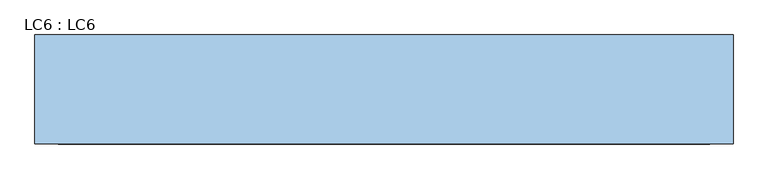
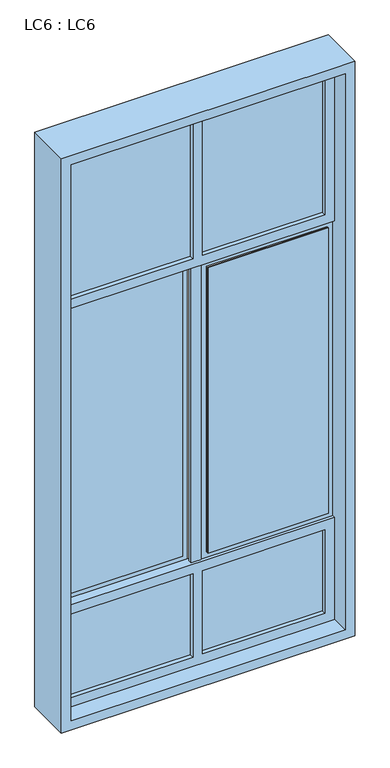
"""IFC4 building model written with IfcOpenShell, lengths in millimetres: window geometry, LC6 : LC6."""

from ifc_helpers import new_model, si_unit, frame, origin, place, context, project, spatial, polyline, outline, extrude, source, transform, mapped, element, save


def lc6_lc6_03a52bd1(model_context):
    return source(origin(), model_context, "Body", "SweptSolid", [
        extrude(outline(polyline([(-25.0, 2.5), (-25.0, -2.5), (-650.0, -2.5), (-650.0, 2.5), (-25.0, 2.5)])), frame((0.0, 0.0, 2550.0), z_axis=(0.0, 0.0, 1.0), x_axis=(1.0, 0.0, 0.0)), (0.0, 0.0, 1.0), 750.0),
        extrude(outline(polyline([(650.0, 2.5), (650.0, -2.5), (25.0, -2.5), (25.0, 2.5), (650.0, 2.5)])), frame((0.0, 0.0, 2550.0), z_axis=(0.0, 0.0, 1.0), x_axis=(1.0, 0.0, 0.0)), (0.0, 0.0, 1.0), 750.0),
        extrude(outline(polyline([(-25.0, 2.5), (-25.0, -2.5), (-650.0, -2.5), (-650.0, 2.5), (-25.0, 2.5)])), frame((0.0, 0.0, 400.0), z_axis=(0.0, 0.0, 1.0), x_axis=(1.0, 0.0, 0.0)), (0.0, 0.0, 1.0), 450.0),
        extrude(outline(polyline([(650.0, 2.5), (650.0, -2.5), (25.0, -2.5), (25.0, 2.5), (650.0, 2.5)])), frame((0.0, 0.0, 400.0), z_axis=(0.0, 0.0, 1.0), x_axis=(1.0, 0.0, 0.0)), (0.0, 0.0, 1.0), 450.0),
        extrude(outline(polyline([(670.0, -15.0), (670.0, -20.0), (55.0, -20.0), (55.0, -15.0), (670.0, -15.0)])), frame((0.0, 0.0, 930.0), z_axis=(0.0, 0.0, 1.0), x_axis=(1.0, 0.0, 0.0)), (0.0, 0.0, 1.0), 1540.0),
        extrude(outline(polyline([(-55.0, 20.0), (-55.0, 15.0), (-670.0, 15.0), (-670.0, 20.0), (-55.0, 20.0)])), frame((0.0, 0.0, 930.0), z_axis=(0.0, 0.0, 1.0), x_axis=(1.0, 0.0, 0.0)), (0.0, 0.0, 1.0), 1540.0),
        extrude(outline(polyline([(2500.0, 700.0), (2500.0, 25.0), (900.0, 25.0), (900.0, 700.0), (2500.0, 700.0)]), holes=[polyline([(2470.0, 670.0), (930.0, 670.0), (930.0, 55.0), (2470.0, 55.0), (2470.0, 670.0)])]), frame((0.0, -8.0, 0.0), z_axis=(0.0, 1.0, 0.0), x_axis=(0.0, 0.0, 1.0)), (0.0, 0.0, 1.0), 15.0),
        extrude(outline(polyline([(2500.0, -25.0), (2500.0, -700.0), (900.0, -700.0), (900.0, -25.0), (2500.0, -25.0)]), holes=[polyline([(2470.0, -55.0), (930.0, -55.0), (930.0, -670.0), (2470.0, -670.0), (2470.0, -55.0)])]), frame((0.0, 25.0, 0.0), z_axis=(0.0, 1.0, 0.0), x_axis=(0.0, 0.0, 1.0)), (0.0, 0.0, 1.0), 2.0),
        extrude(outline(polyline([(25.0, 10.0), (25.0, -10.0), (-25.0, -10.0), (-25.0, 10.0), (25.0, 10.0)])), frame((0.0, 0.0, 900.0), z_axis=(0.0, 0.0, 1.0), x_axis=(1.0, 0.0, 0.0)), (0.0, 0.0, 1.0), 1600.0),
        extrude(outline(polyline([(3350.0, 700.0), (3350.0, -700.0), (2500.0, -700.0), (2500.0, 700.0), (3350.0, 700.0)]), holes=[polyline([(3300.0, -25.0), (2550.0, -25.0), (2550.0, -650.0), (3300.0, -650.0), (3300.0, -25.0)]), polyline([(3300.0, 650.0), (2550.0, 650.0), (2550.0, 25.0), (3300.0, 25.0), (3300.0, 650.0)])]), frame((0.0, -25.0, 0.0), z_axis=(0.0, 1.0, 0.0), x_axis=(0.0, 0.0, 1.0)), (0.0, 0.0, 1.0), 50.0),
        extrude(outline(polyline([(900.0, 700.0), (900.0, -700.0), (350.0, -700.0), (350.0, 700.0), (900.0, 700.0)]), holes=[polyline([(850.0, -25.0), (400.0, -25.0), (400.0, -650.0), (850.0, -650.0), (850.0, -25.0)]), polyline([(850.0, 650.0), (400.0, 650.0), (400.0, 25.0), (850.0, 25.0), (850.0, 650.0)])]), frame((0.0, -25.0, 0.0), z_axis=(0.0, 1.0, 0.0), x_axis=(0.0, 0.0, 1.0)), (0.0, 0.0, 1.0), 50.0),
        extrude(outline(polyline([(3400.0, 750.0), (3400.0, -750.0), (300.0, -750.0), (300.0, 750.0), (3400.0, 750.0)]), holes=[polyline([(3350.0, 700.0), (350.0, 700.0), (350.0, -700.0), (3350.0, -700.0), (3350.0, 700.0)])]), frame((0.0, -117.0, 0.0), z_axis=(0.0, 1.0, 0.0), x_axis=(0.0, 0.0, 1.0)), (0.0, 0.0, 1.0), 234.0),
    ])


if __name__ == "__main__":
    model = new_model("IFC4")
    model_context = context("Model", 3, world=origin())
    ifc_project = project(units=[si_unit("LENGTHUNIT", "METRE", prefix="MILLI")], contexts=[model_context])
    site = spatial("IfcSite", under=ifc_project)
    building = spatial("IfcBuilding", under=site)
    placement = place(None, origin())
    lc6_lc6_shape = lc6_lc6_03a52bd1(model_context)
    element("IfcWindow", 1, ObjectType="LC6 : LC6", at=placement, inside=building, context=model_context, shape_type="MappedRepresentation", body=[
        mapped(lc6_lc6_shape, transform((0.0, 0.0, 0.0), x_axis=(1.0, 0.0, 0.0), y_axis=(0.0, 1.0, 0.0), z_axis=(0.0, 0.0, 1.0))),
    ])
    save(model, "model.ifc")
